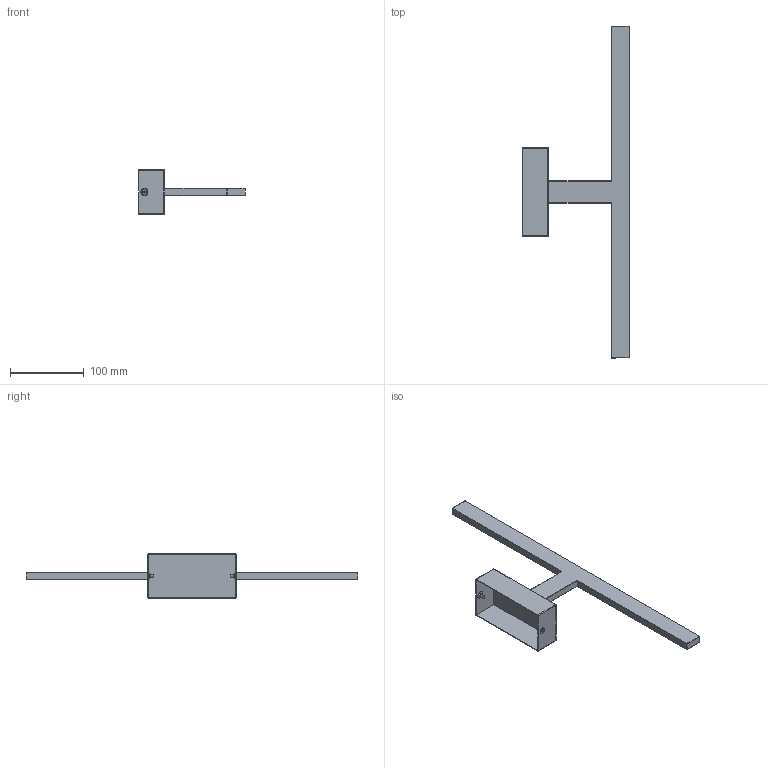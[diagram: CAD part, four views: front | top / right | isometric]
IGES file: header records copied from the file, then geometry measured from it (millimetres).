
Start section: SolidWorks IGES file using analytic representation for surfaces
Global section: file name: \\srvficheros\grupos\DISENYO\DESARROLLO DE PRODUCTO\_3D_WEB\MENORCA-A3730271\MENORCA-A3730271.IGS; native system: SolidWorks 2025; preprocessor: SolidWorks 2025; author: d.pons; date: 260114.124355; units: millimetre
Bounding box: 145 x 450 x 60 mm (x, y, z)
Surface area: 94323.8 mm2 (no closed solid volume)
Topology: 0 solids, 0 shells, 178 faces, 1556 edges, 1540 vertices
Faces by surface type: revolution 91, bspline 87
